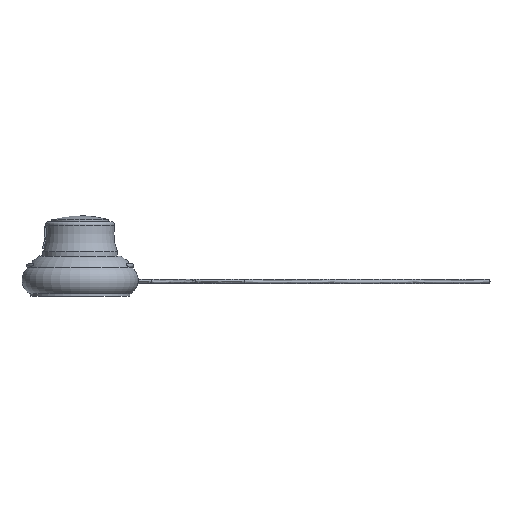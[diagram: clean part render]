
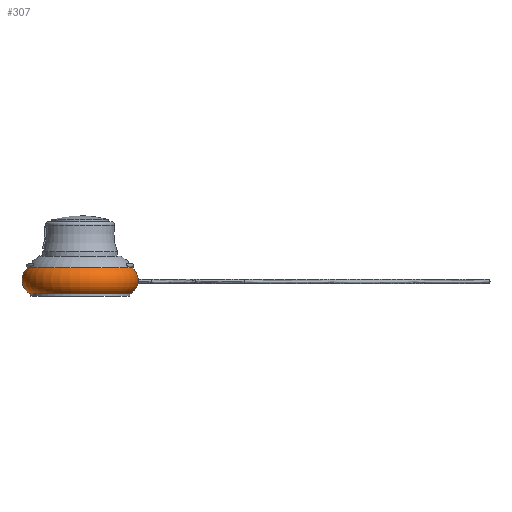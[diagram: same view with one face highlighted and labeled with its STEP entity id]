
A CAD part, front view. The second image highlights one B-rep face of the part: STEP entity #307.
In plain terms, the highlighted toroidal (fillet/blend) face has major radius 28.5 mm and minor radius 10.5 mm.
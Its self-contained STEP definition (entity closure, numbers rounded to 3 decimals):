
#26=TOROIDAL_SURFACE('',#342,28.5,10.5);
#39=FACE_BOUND('',#100,.T.);
#40=FACE_BOUND('',#101,.T.);
#52=B_SPLINE_CURVE_WITH_KNOTS('',3,(#609,#610,#611,#612,#613,#614,#615,
#616,#617,#618,#619,#620,#621,#622,#623,#624,#625,#626,#627,#628,#629,#630,
#631,#632,#633,#634,#635,#636,#637,#638,#639,#640,#641,#642,#643,#644,#645,
#646,#647,#648,#649,#650,#651,#652,#653,#654,#655,#656,#657,#658,#659,#660,
#661,#662),.UNSPECIFIED.,.T.,.F.,(4,2,2,2,2,2,2,2,2,2,2,2,2,2,2,2,2,2,2,
2,2,2,2,2,2,2,4),(-0.947,-0.942,-0.932,
-0.915,-0.856,-0.799,-0.74,
-0.682,-0.627,-0.577,-0.517,
-0.492,-0.481,-0.472,-0.464,
-0.453,-0.426,-0.371,-0.313,
-0.253,-0.196,-0.143,-0.094,
-0.052,-0.022,-0.009,0.),
 .UNSPECIFIED.);
#76=FACE_OUTER_BOUND('',#99,.T.);
#99=EDGE_LOOP('',(#246,#247));
#100=EDGE_LOOP('',(#248));
#101=EDGE_LOOP('',(#249));
#140=CIRCLE('',#343,35.);
#141=CIRCLE('',#344,35.);
#142=CIRCLE('',#345,33.5);
#163=VERTEX_POINT('',#608);
#164=VERTEX_POINT('',#664);
#165=VERTEX_POINT('',#665);
#166=VERTEX_POINT('',#668);
#195=EDGE_CURVE('',#163,#163,#52,.T.);
#196=EDGE_CURVE('',#164,#165,#140,.T.);
#197=EDGE_CURVE('',#165,#164,#141,.T.);
#198=EDGE_CURVE('',#166,#166,#142,.T.);
#246=ORIENTED_EDGE('',*,*,#196,.T.);
#247=ORIENTED_EDGE('',*,*,#197,.T.);
#248=ORIENTED_EDGE('',*,*,#198,.F.);
#249=ORIENTED_EDGE('',*,*,#195,.T.);
#307=ADVANCED_FACE('',(#76,#39,#40),#26,.T.);
#342=AXIS2_PLACEMENT_3D('',#663,#405,#406);
#343=AXIS2_PLACEMENT_3D('',#666,#407,#408);
#344=AXIS2_PLACEMENT_3D('',#667,#409,#410);
#345=AXIS2_PLACEMENT_3D('',#669,#411,#412);
#405=DIRECTION('center_axis',(0.,0.,-1.));
#406=DIRECTION('ref_axis',(-1.,0.,0.));
#407=DIRECTION('center_axis',(0.,0.,-1.));
#408=DIRECTION('ref_axis',(1.,0.,0.));
#409=DIRECTION('center_axis',(0.,0.,-1.));
#410=DIRECTION('ref_axis',(1.,0.,0.));
#411=DIRECTION('center_axis',(0.,0.,-1.));
#412=DIRECTION('ref_axis',(1.,0.,0.));
#608=CARTESIAN_POINT('',(0.,38.973,11.5));
#609=CARTESIAN_POINT('Ctrl Pts',(0.,38.973,
11.5));
#610=CARTESIAN_POINT('Ctrl Pts',(-0.014,38.973,11.5));
#611=CARTESIAN_POINT('Ctrl Pts',(-0.028,38.973,11.5));
#612=CARTESIAN_POINT('Ctrl Pts',(-0.076,38.974,11.498));
#613=CARTESIAN_POINT('Ctrl Pts',(-0.11,38.974,11.496));
#614=CARTESIAN_POINT('Ctrl Pts',(-0.202,38.974,11.488));
#615=CARTESIAN_POINT('Ctrl Pts',(-0.259,38.974,11.479));
#616=CARTESIAN_POINT('Ctrl Pts',(-0.509,38.976,11.425));
#617=CARTESIAN_POINT('Ctrl Pts',(-0.691,38.978,11.346));
#618=CARTESIAN_POINT('Ctrl Pts',(-1.008,38.981,11.127));
#619=CARTESIAN_POINT('Ctrl Pts',(-1.141,38.982,10.991));
#620=CARTESIAN_POINT('Ctrl Pts',(-1.356,38.978,10.672));
#621=CARTESIAN_POINT('Ctrl Pts',(-1.432,38.972,10.489));
#622=CARTESIAN_POINT('Ctrl Pts',(-1.509,38.953,10.106));
#623=CARTESIAN_POINT('Ctrl Pts',(-1.51,38.939,9.91));
#624=CARTESIAN_POINT('Ctrl Pts',(-1.44,38.905,9.542));
#625=CARTESIAN_POINT('Ctrl Pts',(-1.374,38.886,9.371));
#626=CARTESIAN_POINT('Ctrl Pts',(-1.192,38.848,9.074));
#627=CARTESIAN_POINT('Ctrl Pts',(-1.081,38.829,8.947));
#628=CARTESIAN_POINT('Ctrl Pts',(-0.799,38.793,8.715));
#629=CARTESIAN_POINT('Ctrl Pts',(-0.622,38.777,8.621));
#630=CARTESIAN_POINT('Ctrl Pts',(-0.351,38.762,8.539));
#631=CARTESIAN_POINT('Ctrl Pts',(-0.27,38.759,8.522));
#632=CARTESIAN_POINT('Ctrl Pts',(-0.149,38.757,8.507));
#633=CARTESIAN_POINT('Ctrl Pts',(-0.111,38.756,8.504));
#634=CARTESIAN_POINT('Ctrl Pts',(-0.044,38.755,8.5));
#635=CARTESIAN_POINT('Ctrl Pts',(-0.016,38.755,8.5));
#636=CARTESIAN_POINT('Ctrl Pts',(0.039,38.755,8.5));
#637=CARTESIAN_POINT('Ctrl Pts',(0.066,38.755,8.501));
#638=CARTESIAN_POINT('Ctrl Pts',(0.128,38.756,8.505));
#639=CARTESIAN_POINT('Ctrl Pts',(0.164,38.757,8.509));
#640=CARTESIAN_POINT('Ctrl Pts',(0.289,38.76,8.525));
#641=CARTESIAN_POINT('Ctrl Pts',(0.378,38.763,8.546));
#642=CARTESIAN_POINT('Ctrl Pts',(0.639,38.778,8.631));
#643=CARTESIAN_POINT('Ctrl Pts',(0.801,38.794,8.719));
#644=CARTESIAN_POINT('Ctrl Pts',(1.093,38.83,8.954));
#645=CARTESIAN_POINT('Ctrl Pts',(1.218,38.852,9.103));
#646=CARTESIAN_POINT('Ctrl Pts',(1.408,38.894,9.445));
#647=CARTESIAN_POINT('Ctrl Pts',(1.469,38.915,9.636));
#648=CARTESIAN_POINT('Ctrl Pts',(1.512,38.947,10.022));
#649=CARTESIAN_POINT('Ctrl Pts',(1.497,38.959,10.212));
#650=CARTESIAN_POINT('Ctrl Pts',(1.401,38.975,10.565));
#651=CARTESIAN_POINT('Ctrl Pts',(1.324,38.979,10.726));
#652=CARTESIAN_POINT('Ctrl Pts',(1.127,38.982,11.003));
#653=CARTESIAN_POINT('Ctrl Pts',(1.011,38.981,11.12));
#654=CARTESIAN_POINT('Ctrl Pts',(0.765,38.979,11.298));
#655=CARTESIAN_POINT('Ctrl Pts',(0.641,38.977,11.363));
#656=CARTESIAN_POINT('Ctrl Pts',(0.414,38.975,11.445));
#657=CARTESIAN_POINT('Ctrl Pts',(0.315,38.974,11.47));
#658=CARTESIAN_POINT('Ctrl Pts',(0.173,38.974,11.491));
#659=CARTESIAN_POINT('Ctrl Pts',(0.131,38.974,11.495));
#660=CARTESIAN_POINT('Ctrl Pts',(0.059,38.973,11.499));
#661=CARTESIAN_POINT('Ctrl Pts',(0.03,38.973,11.5));
#662=CARTESIAN_POINT('Ctrl Pts',(0.,38.973,
11.5));
#663=CARTESIAN_POINT('Origin',(0.,0.,10.754));
#664=CARTESIAN_POINT('',(-35.,0.,19.));
#665=CARTESIAN_POINT('',(35.,0.,19.));
#666=CARTESIAN_POINT('Origin',(0.,0.,19.));
#667=CARTESIAN_POINT('Origin',(0.,0.,19.));
#668=CARTESIAN_POINT('',(0.,33.5,1.521));
#669=CARTESIAN_POINT('Origin',(0.,0.,1.521));
